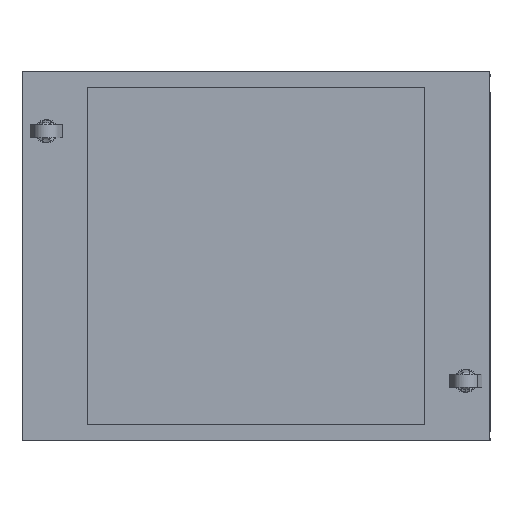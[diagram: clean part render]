
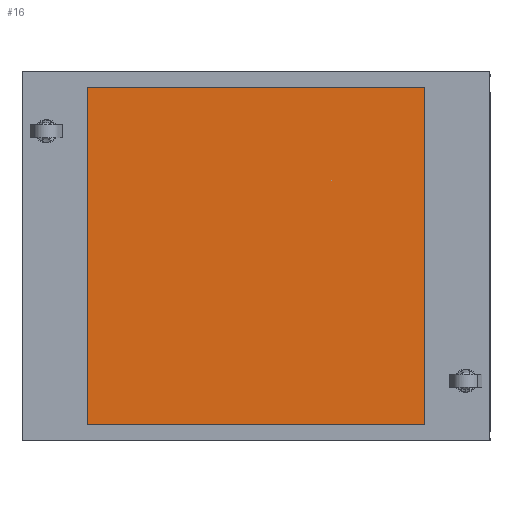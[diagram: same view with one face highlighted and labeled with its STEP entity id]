
A CAD part, front view. The second image highlights one B-rep face of the part: STEP entity #16.
In plain terms, the highlighted planar face has unit normal (0, -1, 0).
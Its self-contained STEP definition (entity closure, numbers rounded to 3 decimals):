
#16 = ADVANCED_FACE ( 'NONE', ( #4034 ), #13896, .F. ) ;
#20 = CARTESIAN_POINT ( 'NONE',  ( -22.86, -0.13, 22.86 ) ) ;
#1007 = EDGE_CURVE ( 'NONE', #8853, #8997, #12018, .T. ) ;
#1311 = ORIENTED_EDGE ( 'NONE', *, *, #12012, .F. ) ;
#1470 = AXIS2_PLACEMENT_3D ( 'NONE', #3485, #9355, #8148 ) ;
#1763 = VECTOR ( 'NONE', #4919, 1000. ) ;
#1838 = CARTESIAN_POINT ( 'NONE',  ( 22.86, -0.13, 22.86 ) ) ;
#3437 = VECTOR ( 'NONE', #4173, 1000. ) ;
#3485 = CARTESIAN_POINT ( 'NONE',  ( 0., -0.13, 0. ) ) ;
#3823 = ORIENTED_EDGE ( 'NONE', *, *, #5659, .F. ) ;
#3954 = DIRECTION ( 'NONE',  ( 1., 0., 0. ) ) ;
#4034 = FACE_OUTER_BOUND ( 'NONE', #9354, .T. ) ;
#4173 = DIRECTION ( 'NONE',  ( -1., 0., 0. ) ) ;
#4459 = CARTESIAN_POINT ( 'NONE',  ( -22.86, -0.13, 22.86 ) ) ;
#4711 = CARTESIAN_POINT ( 'NONE',  ( 22.86, -0.13, -22.86 ) ) ;
#4784 = ORIENTED_EDGE ( 'NONE', *, *, #4857, .F. ) ;
#4857 = EDGE_CURVE ( 'NONE', #7808, #12424, #14749, .T. ) ;
#4919 = DIRECTION ( 'NONE',  ( 0., 0., -1. ) ) ;
#5659 = EDGE_CURVE ( 'NONE', #8997, #7808, #10466, .T. ) ;
#5806 = LINE ( 'NONE', #20, #14867 ) ;
#6947 = CARTESIAN_POINT ( 'NONE',  ( -22.86, -0.13, -22.86 ) ) ;
#6965 = DIRECTION ( 'NONE',  ( 0., 0., 1. ) ) ;
#7419 = VECTOR ( 'NONE', #3954, 1000. ) ;
#7808 = VERTEX_POINT ( 'NONE', #4711 ) ;
#7966 = ORIENTED_EDGE ( 'NONE', *, *, #1007, .F. ) ;
#8148 = DIRECTION ( 'NONE',  ( 0., 0., 1. ) ) ;
#8529 = CARTESIAN_POINT ( 'NONE',  ( 22.86, -0.13, 22.86 ) ) ;
#8853 = VERTEX_POINT ( 'NONE', #4459 ) ;
#8997 = VERTEX_POINT ( 'NONE', #1838 ) ;
#9354 = EDGE_LOOP ( 'NONE', ( #1311, #4784, #3823, #7966 ) ) ;
#9355 = DIRECTION ( 'NONE',  ( 0., 1., 0. ) ) ;
#9488 = CARTESIAN_POINT ( 'NONE',  ( 22.86, -0.13, 22.86 ) ) ;
#10466 = LINE ( 'NONE', #9488, #1763 ) ;
#12012 = EDGE_CURVE ( 'NONE', #12424, #8853, #5806, .T. ) ;
#12018 = LINE ( 'NONE', #8529, #7419 ) ;
#12424 = VERTEX_POINT ( 'NONE', #6947 ) ;
#13896 = PLANE ( 'NONE',  #1470 ) ;
#14596 = CARTESIAN_POINT ( 'NONE',  ( 22.86, -0.13, -22.86 ) ) ;
#14749 = LINE ( 'NONE', #14596, #3437 ) ;
#14867 = VECTOR ( 'NONE', #6965, 1000. ) ;
